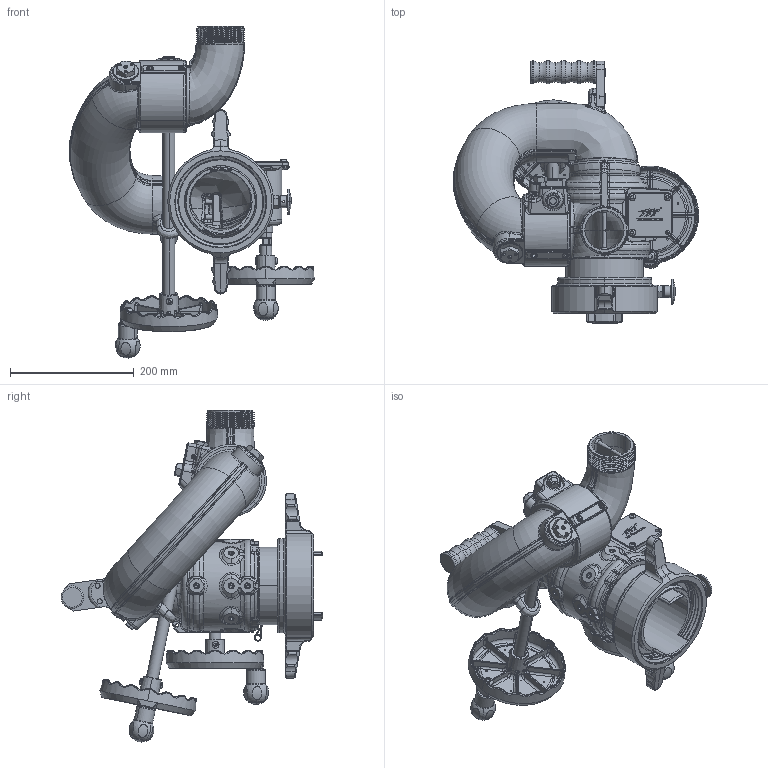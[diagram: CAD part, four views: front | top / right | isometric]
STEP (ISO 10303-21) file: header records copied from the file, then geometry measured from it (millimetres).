
FILE_DESCRIPTION (( 'STEP AP203' ), '1' );
FILE_NAME ('XFIH-DQ1A.STEP', '2016-12-28T16:43:27', ( '' ), ( '' ), 'SwSTEP 2.0', 'SolidWorks 2016', '' );
FILE_SCHEMA (( 'CONFIG_CONTROL_DESIGN' ));
Length unit declared in the file: inch
Products named in the file (1): XFIH-DQ1A
Bounding box: 397.2 x 424.14 x 537.52 mm (x, y, z)
Surface area: 817259.1 mm2 (no closed solid volume)
Topology: 0 solids, 126 shells, 2573 faces, 9211 edges, 6524 vertices
Faces by surface type: bspline 807, cylinder 587, plane 579, torus 332, cone 220, sphere 48
Entity records: 163453 total; most frequent: CARTESIAN_POINT 93736, ORIENTED_EDGE 14524, DIRECTION 12577, EDGE_CURVE 9168, VERTEX_POINT 6514, AXIS2_PLACEMENT_3D 4680, LINE 3217, VECTOR 3217
